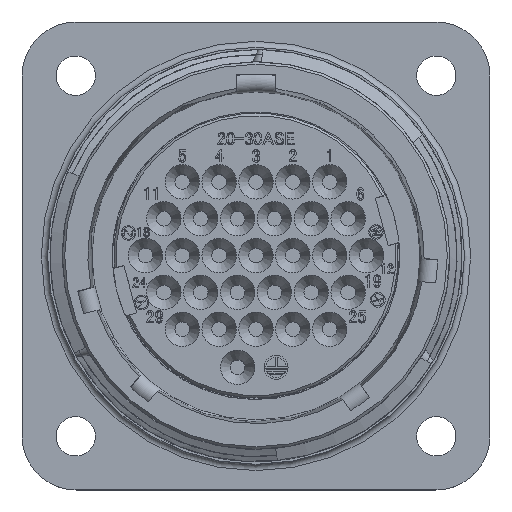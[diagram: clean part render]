
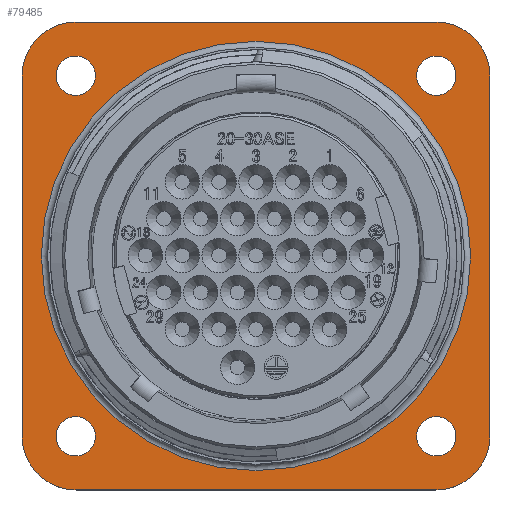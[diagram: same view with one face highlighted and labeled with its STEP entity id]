
A CAD part, top view. The second image highlights one B-rep face of the part: STEP entity #79485.
In plain terms, the highlighted planar face has unit normal (0, 0, 1).
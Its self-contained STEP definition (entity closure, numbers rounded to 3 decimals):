
#394 = CARTESIAN_POINT ( 'NONE',  ( 14.65, -19.05, -19.9 ) ) ;
#1743 = VERTEX_POINT ( 'NONE', #92997 ) ;
#2871 = CARTESIAN_POINT ( 'NONE',  ( -16.28, -14.68, -19.9 ) ) ;
#3568 = CIRCLE ( 'NONE', #4572, 4.4 ) ;
#4572 = AXIS2_PLACEMENT_3D ( 'NONE', #57329, #79520, #50059 ) ;
#4802 = DIRECTION ( 'NONE',  ( 0., 0., -1. ) ) ;
#5091 = DIRECTION ( 'NONE',  ( -1., 0., 0. ) ) ;
#6674 = DIRECTION ( 'NONE',  ( -1., 0., 0. ) ) ;
#8886 = EDGE_CURVE ( 'NONE', #52313, #63774, #34187, .T. ) ;
#8960 = VECTOR ( 'NONE', #33258, 1000. ) ;
#10026 = CARTESIAN_POINT ( 'NONE',  ( 14.65, -14.65, -19.9 ) ) ;
#10921 = DIRECTION ( 'NONE',  ( 1., 0., 0. ) ) ;
#13141 = CIRCLE ( 'NONE', #47465, 1.6 ) ;
#13201 = VERTEX_POINT ( 'NONE', #13968 ) ;
#13674 = CIRCLE ( 'NONE', #49786, 1.6 ) ;
#13968 = CARTESIAN_POINT ( 'NONE',  ( -19.05, -14.65, -19.9 ) ) ;
#14057 = CARTESIAN_POINT ( 'NONE',  ( -17.475, 0., -19.9 ) ) ;
#14219 = FACE_BOUND ( 'NONE', #57308, .T. ) ;
#14481 = CARTESIAN_POINT ( 'NONE',  ( 14.65, -19.05, -19.9 ) ) ;
#15251 = ORIENTED_EDGE ( 'NONE', *, *, #88515, .F. ) ;
#16008 = AXIS2_PLACEMENT_3D ( 'NONE', #10026, #52652, #81166 ) ;
#16897 = CARTESIAN_POINT ( 'NONE',  ( 14.65, 19.05, -19.9 ) ) ;
#17561 = EDGE_CURVE ( 'NONE', #26146, #78140, #93373, .T. ) ;
#18068 = ORIENTED_EDGE ( 'NONE', *, *, #17561, .F. ) ;
#18746 = DIRECTION ( 'NONE',  ( 1., 0., 0. ) ) ;
#19745 = AXIS2_PLACEMENT_3D ( 'NONE', #74884, #46133, #31896 ) ;
#20317 = LINE ( 'NONE', #16897, #32760 ) ;
#23917 = EDGE_CURVE ( 'NONE', #83494, #83494, #13674, .T. ) ;
#25978 = ORIENTED_EDGE ( 'NONE', *, *, #51191, .F. ) ;
#26146 = VERTEX_POINT ( 'NONE', #14481 ) ;
#26720 = FACE_BOUND ( 'NONE', #52141, .T. ) ;
#27625 = DIRECTION ( 'NONE',  ( 1., 0., 0. ) ) ;
#27886 = CARTESIAN_POINT ( 'NONE',  ( -19.05, 14.65, -19.9 ) ) ;
#28759 = EDGE_CURVE ( 'NONE', #45294, #26146, #55200, .T. ) ;
#28988 = FACE_BOUND ( 'NONE', #51282, .T. ) ;
#30521 = EDGE_CURVE ( 'NONE', #78140, #13201, #40441, .T. ) ;
#31896 = DIRECTION ( 'NONE',  ( -1., 0., 0. ) ) ;
#32094 = CARTESIAN_POINT ( 'NONE',  ( -13.08, 14.68, -19.9 ) ) ;
#32450 = VERTEX_POINT ( 'NONE', #14057 ) ;
#32760 = VECTOR ( 'NONE', #10921, 1000. ) ;
#32950 = ORIENTED_EDGE ( 'NONE', *, *, #65581, .T. ) ;
#33258 = DIRECTION ( 'NONE',  ( 0., -1., 0. ) ) ;
#34187 = CIRCLE ( 'NONE', #49385, 4.4 ) ;
#34693 = CIRCLE ( 'NONE', #19745, 1.6 ) ;
#35485 = DIRECTION ( 'NONE',  ( -1., 0., 0. ) ) ;
#37570 = CARTESIAN_POINT ( 'NONE',  ( 19.05, 14.65, -19.9 ) ) ;
#38092 = VERTEX_POINT ( 'NONE', #37570 ) ;
#38323 = AXIS2_PLACEMENT_3D ( 'NONE', #92040, #42334, #6674 ) ;
#40441 = CIRCLE ( 'NONE', #75404, 4.4 ) ;
#41186 = ORIENTED_EDGE ( 'NONE', *, *, #82006, .F. ) ;
#41479 = VERTEX_POINT ( 'NONE', #86489 ) ;
#41721 = CARTESIAN_POINT ( 'NONE',  ( 19.05, 14.65, -19.9 ) ) ;
#42334 = DIRECTION ( 'NONE',  ( 0., 0., -1. ) ) ;
#42793 = ORIENTED_EDGE ( 'NONE', *, *, #8886, .F. ) ;
#43078 = DIRECTION ( 'NONE',  ( -1., 0., 0. ) ) ;
#43099 = CIRCLE ( 'NONE', #77231, 1.6 ) ;
#44088 = EDGE_CURVE ( 'NONE', #32450, #32450, #92728, .T. ) ;
#44686 = VECTOR ( 'NONE', #35485, 1000. ) ;
#45294 = VERTEX_POINT ( 'NONE', #62161 ) ;
#45541 = CARTESIAN_POINT ( 'NONE',  ( -14.65, -19.05, -19.9 ) ) ;
#45957 = DIRECTION ( 'NONE',  ( -1., 0., 0. ) ) ;
#46133 = DIRECTION ( 'NONE',  ( 0., 0., -1. ) ) ;
#47465 = AXIS2_PLACEMENT_3D ( 'NONE', #48062, #4802, #55322 ) ;
#47706 = EDGE_CURVE ( 'NONE', #91347, #91347, #13141, .T. ) ;
#48062 = CARTESIAN_POINT ( 'NONE',  ( 14.68, -14.68, -19.9 ) ) ;
#48472 = LINE ( 'NONE', #41721, #8960 ) ;
#49385 = AXIS2_PLACEMENT_3D ( 'NONE', #55926, #84766, #5091 ) ;
#49786 = AXIS2_PLACEMENT_3D ( 'NONE', #83625, #62036, #18746 ) ;
#50059 = DIRECTION ( 'NONE',  ( 1., 0., 0. ) ) ;
#51191 = EDGE_CURVE ( 'NONE', #1743, #38092, #3568, .T. ) ;
#51282 = EDGE_LOOP ( 'NONE', ( #68542 ) ) ;
#52141 = EDGE_LOOP ( 'NONE', ( #78614 ) ) ;
#52313 = VERTEX_POINT ( 'NONE', #66391 ) ;
#52652 = DIRECTION ( 'NONE',  ( 0., 0., -1. ) ) ;
#55200 = CIRCLE ( 'NONE', #16008, 4.4 ) ;
#55322 = DIRECTION ( 'NONE',  ( 1., 0., 0. ) ) ;
#55926 = CARTESIAN_POINT ( 'NONE',  ( -14.65, 14.65, -19.9 ) ) ;
#56362 = CARTESIAN_POINT ( 'NONE',  ( -14.65, -14.65, -19.9 ) ) ;
#57308 = EDGE_LOOP ( 'NONE', ( #63204 ) ) ;
#57329 = CARTESIAN_POINT ( 'NONE',  ( 14.65, 14.65, -19.9 ) ) ;
#58240 = CARTESIAN_POINT ( 'NONE',  ( -14.65, 14.65, -19.9 ) ) ;
#60784 = FACE_BOUND ( 'NONE', #84245, .T. ) ;
#62036 = DIRECTION ( 'NONE',  ( 0., 0., -1. ) ) ;
#62161 = CARTESIAN_POINT ( 'NONE',  ( 19.05, -14.65, -19.9 ) ) ;
#62890 = EDGE_LOOP ( 'NONE', ( #42793, #41186, #92074, #18068, #73674, #15251, #25978, #69031 ) ) ;
#63204 = ORIENTED_EDGE ( 'NONE', *, *, #47706, .T. ) ;
#63634 = DIRECTION ( 'NONE',  ( 0., 0., -1. ) ) ;
#63774 = VERTEX_POINT ( 'NONE', #67798 ) ;
#65581 = EDGE_CURVE ( 'NONE', #41479, #41479, #34693, .T. ) ;
#66071 = AXIS2_PLACEMENT_3D ( 'NONE', #58240, #86465, #43078 ) ;
#66391 = CARTESIAN_POINT ( 'NONE',  ( -19.05, 14.65, -19.9 ) ) ;
#67304 = LINE ( 'NONE', #27886, #71875 ) ;
#67486 = FACE_OUTER_BOUND ( 'NONE', #62890, .T. ) ;
#67798 = CARTESIAN_POINT ( 'NONE',  ( -14.65, 19.05, -19.9 ) ) ;
#68542 = ORIENTED_EDGE ( 'NONE', *, *, #23917, .T. ) ;
#69031 = ORIENTED_EDGE ( 'NONE', *, *, #76737, .F. ) ;
#69704 = VERTEX_POINT ( 'NONE', #2871 ) ;
#71875 = VECTOR ( 'NONE', #87635, 1000. ) ;
#73674 = ORIENTED_EDGE ( 'NONE', *, *, #28759, .F. ) ;
#74884 = CARTESIAN_POINT ( 'NONE',  ( 14.68, 14.68, -19.9 ) ) ;
#75357 = CARTESIAN_POINT ( 'NONE',  ( -14.68, -14.68, -19.9 ) ) ;
#75404 = AXIS2_PLACEMENT_3D ( 'NONE', #56362, #63634, #27625 ) ;
#76737 = EDGE_CURVE ( 'NONE', #63774, #1743, #20317, .T. ) ;
#77231 = AXIS2_PLACEMENT_3D ( 'NONE', #75357, #82374, #45957 ) ;
#78140 = VERTEX_POINT ( 'NONE', #45541 ) ;
#78614 = ORIENTED_EDGE ( 'NONE', *, *, #85775, .T. ) ;
#79485 = ADVANCED_FACE ( 'NONE', ( #60784, #67486, #92420, #28988, #26720, #14219 ), #80719, .F. ) ;
#79520 = DIRECTION ( 'NONE',  ( 0., 0., -1. ) ) ;
#80719 = PLANE ( 'NONE',  #66071 ) ;
#81166 = DIRECTION ( 'NONE',  ( 1., 0., 0. ) ) ;
#82006 = EDGE_CURVE ( 'NONE', #13201, #52313, #67304, .T. ) ;
#82374 = DIRECTION ( 'NONE',  ( 0., 0., -1. ) ) ;
#83494 = VERTEX_POINT ( 'NONE', #32094 ) ;
#83625 = CARTESIAN_POINT ( 'NONE',  ( -14.68, 14.68, -19.9 ) ) ;
#84245 = EDGE_LOOP ( 'NONE', ( #86241 ) ) ;
#84766 = DIRECTION ( 'NONE',  ( 0., 0., -1. ) ) ;
#85087 = EDGE_LOOP ( 'NONE', ( #32950 ) ) ;
#85775 = EDGE_CURVE ( 'NONE', #69704, #69704, #43099, .T. ) ;
#85878 = CARTESIAN_POINT ( 'NONE',  ( 16.28, -14.68, -19.9 ) ) ;
#86241 = ORIENTED_EDGE ( 'NONE', *, *, #44088, .T. ) ;
#86465 = DIRECTION ( 'NONE',  ( 0., 0., -1. ) ) ;
#86489 = CARTESIAN_POINT ( 'NONE',  ( 13.08, 14.68, -19.9 ) ) ;
#87635 = DIRECTION ( 'NONE',  ( 0., 1., 0. ) ) ;
#88515 = EDGE_CURVE ( 'NONE', #38092, #45294, #48472, .T. ) ;
#91347 = VERTEX_POINT ( 'NONE', #85878 ) ;
#92040 = CARTESIAN_POINT ( 'NONE',  ( 0., 0., -19.9 ) ) ;
#92074 = ORIENTED_EDGE ( 'NONE', *, *, #30521, .F. ) ;
#92420 = FACE_BOUND ( 'NONE', #85087, .T. ) ;
#92728 = CIRCLE ( 'NONE', #38323, 17.475 ) ;
#92997 = CARTESIAN_POINT ( 'NONE',  ( 14.65, 19.05, -19.9 ) ) ;
#93373 = LINE ( 'NONE', #394, #44686 ) ;
